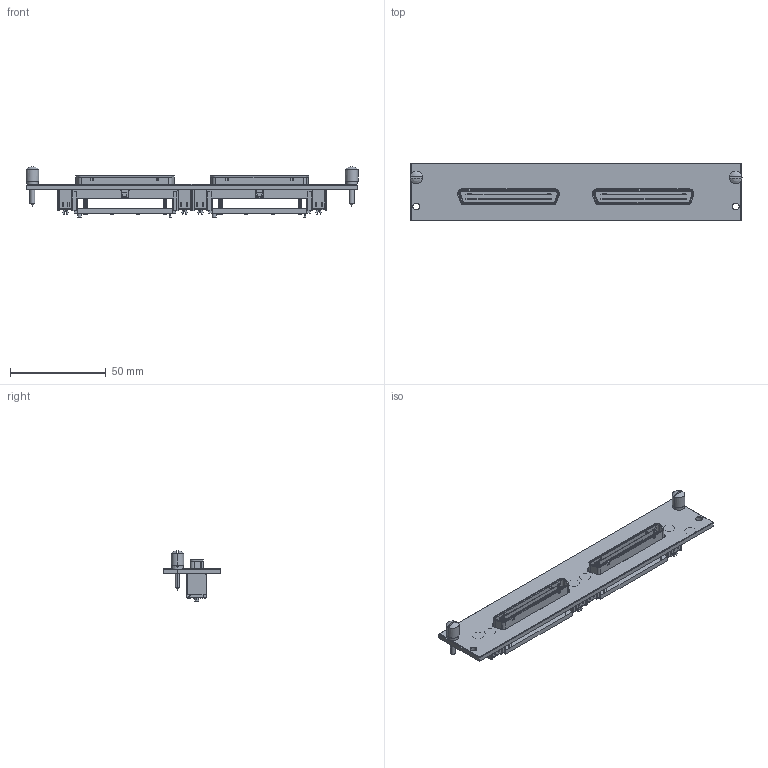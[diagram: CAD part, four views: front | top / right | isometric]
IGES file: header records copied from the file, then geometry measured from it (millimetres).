
Start section:  PTC IGES file: cu_scxi-1130.igs
Global section: file name: cu_scxi-1130.igs; native system: Pro/ENGINEER by Parametric Technology Corporation; preprocessor: 2006080; author: jjorden; organization: Unknown; date: 091207.120937; units: inch
Bounding box: 173.51 x 30.18 x 26.37 mm (x, y, z)
Surface area: 24482.9 mm2 (no closed solid volume)
Topology: 0 solids, 0 shells, 1845 faces, 9836 edges, 9832 vertices
Faces by surface type: bspline 1407, revolution 438
